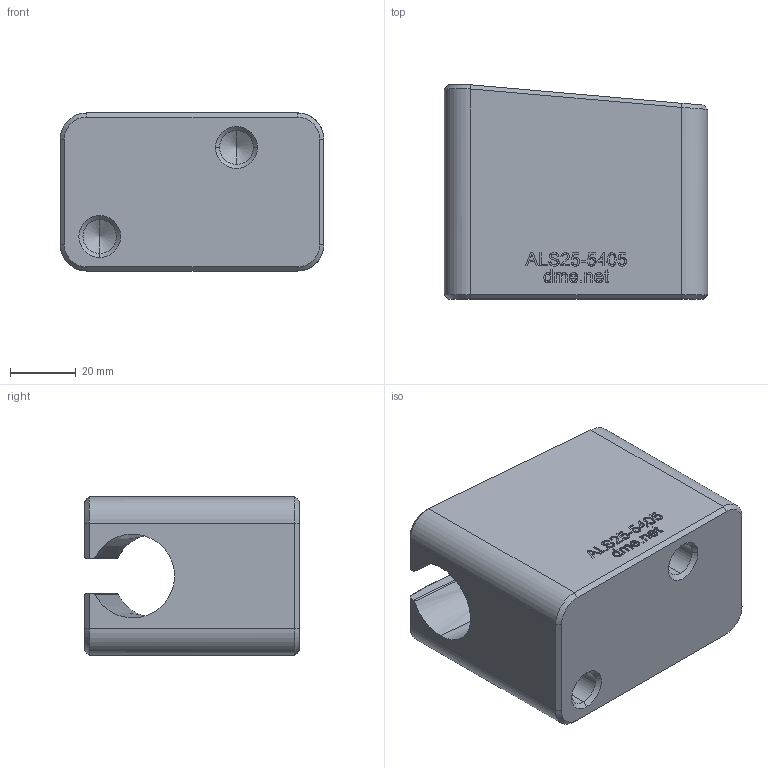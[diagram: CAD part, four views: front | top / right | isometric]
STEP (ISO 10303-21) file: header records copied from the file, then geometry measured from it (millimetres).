
FILE_DESCRIPTION (( 'STEP AP203' ), '1' );
FILE_NAME ('ALS25-5405.STEP', '2021-01-11T16:28:02', ( '' ), ( '' ), 'SwSTEP 2.0', 'SolidWorks 2020', '' );
FILE_SCHEMA (( 'CONFIG_CONTROL_DESIGN' ));
Length unit declared in the file: millimetre
Products named in the file (1): ALS25-5405
Bounding box: 80 x 65 x 48 mm (x, y, z)
Volume: 188650.1 mm3; surface area: 27647.7 mm2
Topology: 1 solids, 1 shells, 292 faces, 777 edges, 508 vertices
Faces by surface type: plane 152, bspline 112, cone 14, cylinder 14
Entity records: 15090 total; most frequent: CARTESIAN_POINT 8568, ORIENTED_EDGE 1546, DIRECTION 921, EDGE_CURVE 773, VERTEX_POINT 508, LINE 507, VECTOR 507, EDGE_LOOP 317
